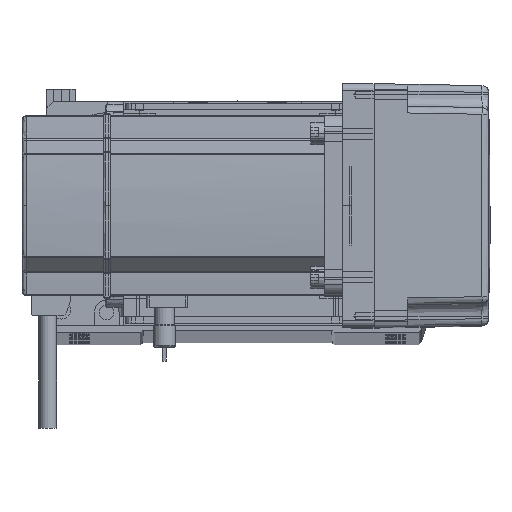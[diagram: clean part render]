
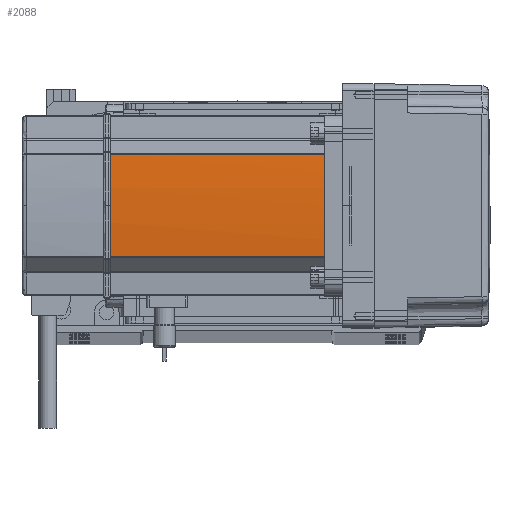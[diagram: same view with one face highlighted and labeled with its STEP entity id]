
A CAD part, top view. The second image highlights one B-rep face of the part: STEP entity #2088.
In plain terms, the highlighted cylindrical face has radius 270 mm (diameter 540 mm), a partial arc.
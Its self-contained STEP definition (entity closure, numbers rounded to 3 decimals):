
#107 = DIRECTION ( 'NONE',  ( 1., 0., 0. ) ) ;
#372 = CARTESIAN_POINT ( 'NONE',  ( 230., 0., 134. ) ) ;
#609 = AXIS2_PLACEMENT_3D ( 'NONE', #66017, #40239, #34844 ) ;
#2088 = ADVANCED_FACE ( 'NONE', ( #48780 ), #51997, .T. ) ;
#3806 = ORIENTED_EDGE ( 'NONE', *, *, #28014, .T. ) ;
#5297 = ORIENTED_EDGE ( 'NONE', *, *, #45906, .F. ) ;
#7160 = CARTESIAN_POINT ( 'NONE',  ( 230., 0., 134. ) ) ;
#7586 = VERTEX_POINT ( 'NONE', #40519 ) ;
#7818 = DIRECTION ( 'NONE',  ( 0., 0., -1. ) ) ;
#8589 = CIRCLE ( 'NONE', #41637, 270. ) ;
#8680 = CARTESIAN_POINT ( 'NONE',  ( -39.042, 22.724, 39. ) ) ;
#8702 = CIRCLE ( 'NONE', #43628, 270. ) ;
#9572 = CARTESIAN_POINT ( 'NONE',  ( -40., 0., 134. ) ) ;
#11299 = EDGE_CURVE ( 'NONE', #7586, #59469, #12731, .T. ) ;
#12192 = ORIENTED_EDGE ( 'NONE', *, *, #11299, .T. ) ;
#12440 = VECTOR ( 'NONE', #55503, 1000. ) ;
#12731 = LINE ( 'NONE', #28737, #38495 ) ;
#20686 = DIRECTION ( 'NONE',  ( 1., 0., 0. ) ) ;
#25896 = DIRECTION ( 'NONE',  ( 0., 0., -1. ) ) ;
#28014 = EDGE_CURVE ( 'NONE', #38951, #33793, #48669, .T. ) ;
#28737 = CARTESIAN_POINT ( 'NONE',  ( -39.042, 22.724, 0. ) ) ;
#32309 = AXIS2_PLACEMENT_3D ( 'NONE', #42206, #25896, #107 ) ;
#32523 = EDGE_CURVE ( 'NONE', #33793, #64302, #8589, .T. ) ;
#33793 = VERTEX_POINT ( 'NONE', #40382 ) ;
#34693 = CARTESIAN_POINT ( 'NONE',  ( -39.042, -22.724, 39. ) ) ;
#34844 = DIRECTION ( 'NONE',  ( 1., 0., 0. ) ) ;
#35771 = CARTESIAN_POINT ( 'NONE',  ( -39.042, -22.724, 0. ) ) ;
#38242 = DIRECTION ( 'NONE',  ( 1., 0., 0. ) ) ;
#38495 = VECTOR ( 'NONE', #59646, 1000. ) ;
#38951 = VERTEX_POINT ( 'NONE', #34693 ) ;
#40239 = DIRECTION ( 'NONE',  ( 0., 0., 1. ) ) ;
#40382 = CARTESIAN_POINT ( 'NONE',  ( -39.042, -22.724, 134. ) ) ;
#40519 = CARTESIAN_POINT ( 'NONE',  ( -39.042, 22.724, 134. ) ) ;
#41637 = AXIS2_PLACEMENT_3D ( 'NONE', #7160, #7818, #38242 ) ;
#42206 = CARTESIAN_POINT ( 'NONE',  ( 230., 0., 39. ) ) ;
#43571 = ORIENTED_EDGE ( 'NONE', *, *, #66569, .T. ) ;
#43628 = AXIS2_PLACEMENT_3D ( 'NONE', #372, #61326, #20686 ) ;
#45888 = ORIENTED_EDGE ( 'NONE', *, *, #32523, .T. ) ;
#45906 = EDGE_CURVE ( 'NONE', #38951, #59469, #60956, .T. ) ;
#48538 = EDGE_LOOP ( 'NONE', ( #45888, #43571, #12192, #5297, #3806 ) ) ;
#48669 = LINE ( 'NONE', #35771, #12440 ) ;
#48780 = FACE_OUTER_BOUND ( 'NONE', #48538, .T. ) ;
#51997 = CYLINDRICAL_SURFACE ( 'NONE', #609, 270. ) ;
#55503 = DIRECTION ( 'NONE',  ( 0., 0., 1. ) ) ;
#59469 = VERTEX_POINT ( 'NONE', #8680 ) ;
#59646 = DIRECTION ( 'NONE',  ( 0., 0., -1. ) ) ;
#60956 = CIRCLE ( 'NONE', #32309, 270. ) ;
#61326 = DIRECTION ( 'NONE',  ( 0., 0., -1. ) ) ;
#64302 = VERTEX_POINT ( 'NONE', #9572 ) ;
#66017 = CARTESIAN_POINT ( 'NONE',  ( 230., 0., 0. ) ) ;
#66569 = EDGE_CURVE ( 'NONE', #64302, #7586, #8702, .T. ) ;
